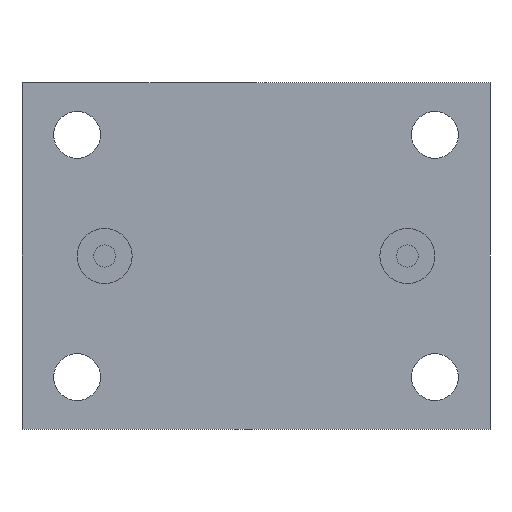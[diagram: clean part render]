
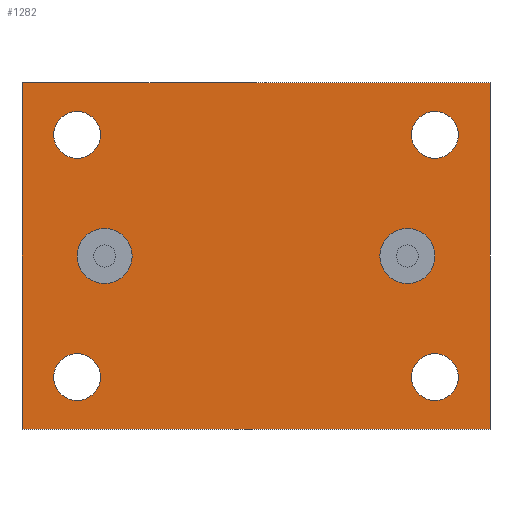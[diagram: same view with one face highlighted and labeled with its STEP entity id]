
A CAD part, front view. The second image highlights one B-rep face of the part: STEP entity #1282.
In plain terms, the highlighted planar face has unit normal (0, -1, 0).
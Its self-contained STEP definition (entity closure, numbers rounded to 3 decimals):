
#1 = DIRECTION ( 'NONE',  ( 0., 0., 1. ) ) ;
#15 = CARTESIAN_POINT ( 'NONE',  ( -32.5, 0., 22. ) ) ;
#18 = EDGE_CURVE ( 'NONE', #553, #590, #288, .T. ) ;
#23 = VERTEX_POINT ( 'NONE', #910 ) ;
#35 = EDGE_CURVE ( 'NONE', #603, #1241, #1072, .T. ) ;
#50 = DIRECTION ( 'NONE',  ( 0., -1., 0. ) ) ;
#51 = EDGE_CURVE ( 'NONE', #1003, #250, #642, .T. ) ;
#81 = AXIS2_PLACEMENT_3D ( 'NONE', #665, #50, #1057 ) ;
#94 = FACE_BOUND ( 'NONE', #926, .T. ) ;
#105 = ORIENTED_EDGE ( 'NONE', *, *, #162, .T. ) ;
#110 = DIRECTION ( 'NONE',  ( 0., 1., 0. ) ) ;
#129 = FACE_BOUND ( 'NONE', #280, .T. ) ;
#135 = EDGE_CURVE ( 'NONE', #1241, #603, #782, .T. ) ;
#136 = ORIENTED_EDGE ( 'NONE', *, *, #704, .T. ) ;
#137 = VECTOR ( 'NONE', #841, 1000. ) ;
#146 = CARTESIAN_POINT ( 'NONE',  ( -42.5, 0., 31.5 ) ) ;
#162 = EDGE_CURVE ( 'NONE', #590, #553, #620, .T. ) ;
#166 = DIRECTION ( 'NONE',  ( 0., 1., 0. ) ) ;
#179 = CARTESIAN_POINT ( 'NONE',  ( -42.5, 0., -31.5 ) ) ;
#200 = DIRECTION ( 'NONE',  ( -1., 0., 0. ) ) ;
#215 = VERTEX_POINT ( 'NONE', #1139 ) ;
#217 = CARTESIAN_POINT ( 'NONE',  ( -32.5, 0., 26.25 ) ) ;
#218 = CARTESIAN_POINT ( 'NONE',  ( -32.5, 0., -22. ) ) ;
#234 = EDGE_CURVE ( 'NONE', #215, #1150, #568, .T. ) ;
#249 = DIRECTION ( 'NONE',  ( 0., 0., 1. ) ) ;
#250 = VERTEX_POINT ( 'NONE', #451 ) ;
#252 = ORIENTED_EDGE ( 'NONE', *, *, #950, .F. ) ;
#259 = EDGE_CURVE ( 'NONE', #907, #23, #1062, .T. ) ;
#261 = EDGE_CURVE ( 'NONE', #374, #1085, #635, .T. ) ;
#264 = AXIS2_PLACEMENT_3D ( 'NONE', #713, #1297, #318 ) ;
#268 = DIRECTION ( 'NONE',  ( 0., 0., 1. ) ) ;
#274 = CIRCLE ( 'NONE', #1000, 5. ) ;
#280 = EDGE_LOOP ( 'NONE', ( #505, #136 ) ) ;
#288 = CIRCLE ( 'NONE', #1093, 4.25 ) ;
#291 = AXIS2_PLACEMENT_3D ( 'NONE', #15, #1130, #726 ) ;
#302 = AXIS2_PLACEMENT_3D ( 'NONE', #1234, #644, #732 ) ;
#306 = DIRECTION ( 'NONE',  ( 0., 1., 0. ) ) ;
#307 = CIRCLE ( 'NONE', #291, 4.25 ) ;
#318 = DIRECTION ( 'NONE',  ( 0., 0., -1. ) ) ;
#336 = ORIENTED_EDGE ( 'NONE', *, *, #356, .T. ) ;
#346 = AXIS2_PLACEMENT_3D ( 'NONE', #963, #1161, #1250 ) ;
#353 = VECTOR ( 'NONE', #249, 1000. ) ;
#356 = EDGE_CURVE ( 'NONE', #1150, #215, #683, .T. ) ;
#374 = VERTEX_POINT ( 'NONE', #179 ) ;
#377 = DIRECTION ( 'NONE',  ( 0., 1., 0. ) ) ;
#381 = CARTESIAN_POINT ( 'NONE',  ( 27.5, 0., 5. ) ) ;
#389 = EDGE_LOOP ( 'NONE', ( #519, #1186 ) ) ;
#399 = EDGE_CURVE ( 'NONE', #1166, #1257, #1275, .T. ) ;
#401 = ORIENTED_EDGE ( 'NONE', *, *, #234, .T. ) ;
#403 = LINE ( 'NONE', #146, #137 ) ;
#446 = ORIENTED_EDGE ( 'NONE', *, *, #51, .T. ) ;
#450 = CARTESIAN_POINT ( 'NONE',  ( -27.5, 0., 0. ) ) ;
#451 = CARTESIAN_POINT ( 'NONE',  ( -32.5, 0., 17.75 ) ) ;
#454 = CARTESIAN_POINT ( 'NONE',  ( 42.5, 0., -31.5 ) ) ;
#455 = AXIS2_PLACEMENT_3D ( 'NONE', #902, #1206, #1200 ) ;
#466 = FACE_BOUND ( 'NONE', #548, .T. ) ;
#476 = ORIENTED_EDGE ( 'NONE', *, *, #18, .T. ) ;
#499 = CARTESIAN_POINT ( 'NONE',  ( 42.5, 0., 31.5 ) ) ;
#505 = ORIENTED_EDGE ( 'NONE', *, *, #399, .T. ) ;
#519 = ORIENTED_EDGE ( 'NONE', *, *, #35, .F. ) ;
#530 = DIRECTION ( 'NONE',  ( 0., 0., -1. ) ) ;
#532 = AXIS2_PLACEMENT_3D ( 'NONE', #1008, #306, #1 ) ;
#548 = EDGE_LOOP ( 'NONE', ( #336, #401 ) ) ;
#553 = VERTEX_POINT ( 'NONE', #1233 ) ;
#557 = CARTESIAN_POINT ( 'NONE',  ( 32.5, 0., 22. ) ) ;
#568 = CIRCLE ( 'NONE', #346, 4.25 ) ;
#570 = EDGE_LOOP ( 'NONE', ( #476, #105 ) ) ;
#588 = CARTESIAN_POINT ( 'NONE',  ( 32.5, 0., 22. ) ) ;
#590 = VERTEX_POINT ( 'NONE', #1138 ) ;
#598 = EDGE_CURVE ( 'NONE', #1085, #907, #403, .T. ) ;
#603 = VERTEX_POINT ( 'NONE', #1143 ) ;
#609 = CARTESIAN_POINT ( 'NONE',  ( -42.5, 0., -31.5 ) ) ;
#620 = CIRCLE ( 'NONE', #302, 4.25 ) ;
#635 = LINE ( 'NONE', #751, #353 ) ;
#642 = CIRCLE ( 'NONE', #532, 4.25 ) ;
#644 = DIRECTION ( 'NONE',  ( 0., 1., 0. ) ) ;
#646 = FACE_OUTER_BOUND ( 'NONE', #1031, .T. ) ;
#648 = CIRCLE ( 'NONE', #1187, 4.25 ) ;
#661 = CARTESIAN_POINT ( 'NONE',  ( -27.5, 0., 5. ) ) ;
#662 = CARTESIAN_POINT ( 'NONE',  ( 27.5, 0., -5. ) ) ;
#665 = CARTESIAN_POINT ( 'NONE',  ( 27.5, 0., 0. ) ) ;
#671 = DIRECTION ( 'NONE',  ( 0., 0., 1. ) ) ;
#676 = AXIS2_PLACEMENT_3D ( 'NONE', #588, #166, #268 ) ;
#677 = FACE_BOUND ( 'NONE', #389, .T. ) ;
#683 = CIRCLE ( 'NONE', #771, 4.25 ) ;
#691 = DIRECTION ( 'NONE',  ( 0., 0., -1. ) ) ;
#704 = EDGE_CURVE ( 'NONE', #1257, #1166, #648, .T. ) ;
#707 = CARTESIAN_POINT ( 'NONE',  ( 27.5, 0., 0. ) ) ;
#713 = CARTESIAN_POINT ( 'NONE',  ( -27.5, 0., 0. ) ) ;
#720 = VERTEX_POINT ( 'NONE', #662 ) ;
#722 = VERTEX_POINT ( 'NONE', #381 ) ;
#726 = DIRECTION ( 'NONE',  ( 0., 0., 1. ) ) ;
#732 = DIRECTION ( 'NONE',  ( 0., 0., 1. ) ) ;
#739 = ORIENTED_EDGE ( 'NONE', *, *, #1228, .F. ) ;
#751 = CARTESIAN_POINT ( 'NONE',  ( -42.5, 0., -31.5 ) ) ;
#771 = AXIS2_PLACEMENT_3D ( 'NONE', #882, #1177, #981 ) ;
#772 = FACE_BOUND ( 'NONE', #1215, .T. ) ;
#782 = CIRCLE ( 'NONE', #1263, 5. ) ;
#786 = ORIENTED_EDGE ( 'NONE', *, *, #261, .F. ) ;
#817 = CARTESIAN_POINT ( 'NONE',  ( -42.5, 0., 31.5 ) ) ;
#841 = DIRECTION ( 'NONE',  ( 1., 0., 0. ) ) ;
#848 = ORIENTED_EDGE ( 'NONE', *, *, #1286, .F. ) ;
#858 = VECTOR ( 'NONE', #1256, 1000. ) ;
#882 = CARTESIAN_POINT ( 'NONE',  ( 32.5, 0., -22. ) ) ;
#883 = ORIENTED_EDGE ( 'NONE', *, *, #259, .F. ) ;
#902 = CARTESIAN_POINT ( 'NONE',  ( 0., 0., 0. ) ) ;
#907 = VERTEX_POINT ( 'NONE', #499 ) ;
#910 = CARTESIAN_POINT ( 'NONE',  ( 42.5, 0., -31.5 ) ) ;
#926 = EDGE_LOOP ( 'NONE', ( #446, #1269 ) ) ;
#931 = DIRECTION ( 'NONE',  ( 0., -1., 0. ) ) ;
#942 = CARTESIAN_POINT ( 'NONE',  ( 32.5, 0., -17.75 ) ) ;
#950 = EDGE_CURVE ( 'NONE', #23, #374, #1074, .T. ) ;
#963 = CARTESIAN_POINT ( 'NONE',  ( 32.5, 0., -22. ) ) ;
#981 = DIRECTION ( 'NONE',  ( 0., 0., 1. ) ) ;
#989 = DIRECTION ( 'NONE',  ( 0., -1., 0. ) ) ;
#1000 = AXIS2_PLACEMENT_3D ( 'NONE', #707, #989, #691 ) ;
#1003 = VERTEX_POINT ( 'NONE', #217 ) ;
#1008 = CARTESIAN_POINT ( 'NONE',  ( -32.5, 0., 22. ) ) ;
#1014 = DIRECTION ( 'NONE',  ( 0., 0., 1. ) ) ;
#1031 = EDGE_LOOP ( 'NONE', ( #883, #1280, #786, #252 ) ) ;
#1057 = DIRECTION ( 'NONE',  ( 0., 0., -1. ) ) ;
#1062 = LINE ( 'NONE', #454, #858 ) ;
#1072 = CIRCLE ( 'NONE', #264, 5. ) ;
#1074 = LINE ( 'NONE', #609, #1102 ) ;
#1085 = VERTEX_POINT ( 'NONE', #817 ) ;
#1088 = PLANE ( 'NONE',  #455 ) ;
#1093 = AXIS2_PLACEMENT_3D ( 'NONE', #218, #110, #1014 ) ;
#1102 = VECTOR ( 'NONE', #200, 1000. ) ;
#1106 = EDGE_CURVE ( 'NONE', #250, #1003, #307, .T. ) ;
#1130 = DIRECTION ( 'NONE',  ( 0., 1., 0. ) ) ;
#1135 = CARTESIAN_POINT ( 'NONE',  ( 32.5, 0., 26.25 ) ) ;
#1138 = CARTESIAN_POINT ( 'NONE',  ( -32.5, 0., -26.25 ) ) ;
#1139 = CARTESIAN_POINT ( 'NONE',  ( 32.5, 0., -26.25 ) ) ;
#1143 = CARTESIAN_POINT ( 'NONE',  ( -27.5, 0., -5. ) ) ;
#1150 = VERTEX_POINT ( 'NONE', #942 ) ;
#1153 = CARTESIAN_POINT ( 'NONE',  ( 32.5, 0., 17.75 ) ) ;
#1161 = DIRECTION ( 'NONE',  ( 0., 1., 0. ) ) ;
#1166 = VERTEX_POINT ( 'NONE', #1135 ) ;
#1172 = FACE_BOUND ( 'NONE', #570, .T. ) ;
#1177 = DIRECTION ( 'NONE',  ( 0., 1., 0. ) ) ;
#1186 = ORIENTED_EDGE ( 'NONE', *, *, #135, .F. ) ;
#1187 = AXIS2_PLACEMENT_3D ( 'NONE', #557, #377, #671 ) ;
#1200 = DIRECTION ( 'NONE',  ( 0., 0., 1. ) ) ;
#1206 = DIRECTION ( 'NONE',  ( 0., 1., 0. ) ) ;
#1215 = EDGE_LOOP ( 'NONE', ( #739, #848 ) ) ;
#1224 = CIRCLE ( 'NONE', #81, 5. ) ;
#1228 = EDGE_CURVE ( 'NONE', #720, #722, #1224, .T. ) ;
#1233 = CARTESIAN_POINT ( 'NONE',  ( -32.5, 0., -17.75 ) ) ;
#1234 = CARTESIAN_POINT ( 'NONE',  ( -32.5, 0., -22. ) ) ;
#1241 = VERTEX_POINT ( 'NONE', #661 ) ;
#1250 = DIRECTION ( 'NONE',  ( 0., 0., 1. ) ) ;
#1256 = DIRECTION ( 'NONE',  ( 0., 0., -1. ) ) ;
#1257 = VERTEX_POINT ( 'NONE', #1153 ) ;
#1263 = AXIS2_PLACEMENT_3D ( 'NONE', #450, #931, #530 ) ;
#1269 = ORIENTED_EDGE ( 'NONE', *, *, #1106, .T. ) ;
#1275 = CIRCLE ( 'NONE', #676, 4.25 ) ;
#1280 = ORIENTED_EDGE ( 'NONE', *, *, #598, .F. ) ;
#1282 = ADVANCED_FACE ( 'NONE', ( #677, #772, #466, #129, #94, #1172, #646 ), #1088, .F. ) ;
#1286 = EDGE_CURVE ( 'NONE', #722, #720, #274, .T. ) ;
#1297 = DIRECTION ( 'NONE',  ( 0., -1., 0. ) ) ;
